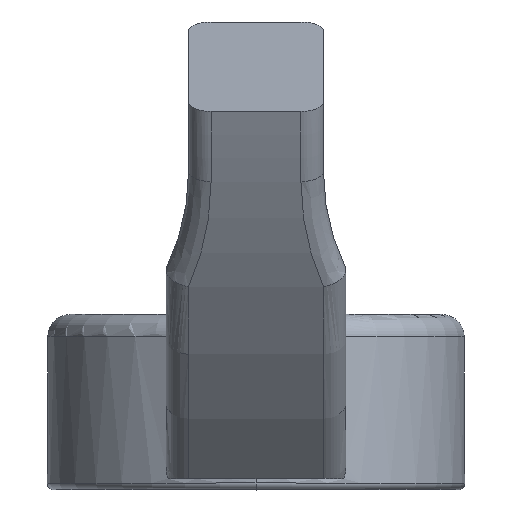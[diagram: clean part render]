
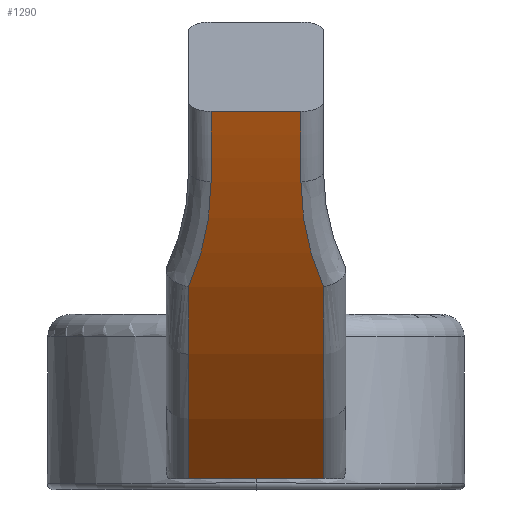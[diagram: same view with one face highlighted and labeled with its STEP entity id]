
A CAD part, top view. The second image highlights one B-rep face of the part: STEP entity #1290.
In plain terms, the highlighted cylindrical face has radius 26 mm (diameter 52 mm), a partial arc.
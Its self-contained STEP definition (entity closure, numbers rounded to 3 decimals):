
#2 = ORIENTED_EDGE ( 'NONE', *, *, #1684, .T. ) ;
#30 = DIRECTION ( 'NONE',  ( -1., 0., 0. ) ) ;
#68 = CARTESIAN_POINT ( 'NONE',  ( 1.045, 6.025, 9.271 ) ) ;
#161 = LINE ( 'NONE', #1410, #1914 ) ;
#215 = DIRECTION ( 'NONE',  ( 1., 0., 0. ) ) ;
#260 = CARTESIAN_POINT ( 'NONE',  ( -1.5, 0.238, 4.65 ) ) ;
#351 = CARTESIAN_POINT ( 'NONE',  ( 1.5, 4.506, 8.303 ) ) ;
#406 = AXIS2_PLACEMENT_3D ( 'NONE', #1479, #3466, #3206 ) ;
#448 = CARTESIAN_POINT ( 'NONE',  ( 1., 8.4, 10.5 ) ) ;
#475 = EDGE_CURVE ( 'NONE', #3282, #764, #161, .T. ) ;
#493 = CARTESIAN_POINT ( 'NONE',  ( 1., 19.18, -13.16 ) ) ;
#537 = CARTESIAN_POINT ( 'NONE',  ( -1., 19.18, -13.16 ) ) ;
#565 = ORIENTED_EDGE ( 'NONE', *, *, #1245, .T. ) ;
#618 = EDGE_LOOP ( 'NONE', ( #2269, #2160, #847, #1088, #1352, #2999, #565, #1386, #2 ) ) ;
#764 = VERTEX_POINT ( 'NONE', #2673 ) ;
#813 = CARTESIAN_POINT ( 'NONE',  ( -1.5, 19.18, -13.16 ) ) ;
#847 = ORIENTED_EDGE ( 'NONE', *, *, #1937, .F. ) ;
#877 = CARTESIAN_POINT ( 'NONE',  ( -1., 6.842, 9.726 ) ) ;
#957 = LINE ( 'NONE', #1806, #1260 ) ;
#960 = VERTEX_POINT ( 'NONE', #2480 ) ;
#988 = LINE ( 'NONE', #2749, #1345 ) ;
#995 = VERTEX_POINT ( 'NONE', #448 ) ;
#1053 = EDGE_CURVE ( 'NONE', #3667, #1721, #3473, .T. ) ;
#1088 = ORIENTED_EDGE ( 'NONE', *, *, #475, .F. ) ;
#1104 = VERTEX_POINT ( 'NONE', #3139 ) ;
#1106 = VERTEX_POINT ( 'NONE', #2806 ) ;
#1178 = DIRECTION ( 'NONE',  ( 0., 0., -1. ) ) ;
#1183 = CARTESIAN_POINT ( 'NONE',  ( -1.045, 6.025, 9.271 ) ) ;
#1214 = CARTESIAN_POINT ( 'NONE',  ( 1., 6.427, 9.502 ) ) ;
#1245 = EDGE_CURVE ( 'NONE', #960, #995, #3284, .T. ) ;
#1252 = CARTESIAN_POINT ( 'NONE',  ( -1.5, 4.506, 8.303 ) ) ;
#1260 = VECTOR ( 'NONE', #1843, 1000. ) ;
#1290 = ADVANCED_FACE ( 'NONE', ( #1438 ), #2050, .T. ) ;
#1345 = VECTOR ( 'NONE', #3313, 1000. ) ;
#1352 = ORIENTED_EDGE ( 'NONE', *, *, #2688, .T. ) ;
#1386 = ORIENTED_EDGE ( 'NONE', *, *, #3624, .T. ) ;
#1410 = CARTESIAN_POINT ( 'NONE',  ( 2., 0.238, 4.65 ) ) ;
#1438 = FACE_OUTER_BOUND ( 'NONE', #618, .T. ) ;
#1479 = CARTESIAN_POINT ( 'NONE',  ( 2., 19.18, -13.16 ) ) ;
#1483 = CARTESIAN_POINT ( 'NONE',  ( -1.5, 4.506, 8.303 ) ) ;
#1499 = CARTESIAN_POINT ( 'NONE',  ( 1.336, 4.871, 8.553 ) ) ;
#1529 = EDGE_CURVE ( 'NONE', #3724, #3667, #3629, .T. ) ;
#1620 = AXIS2_PLACEMENT_3D ( 'NONE', #537, #2566, #2890 ) ;
#1684 = EDGE_CURVE ( 'NONE', #1104, #3724, #3564, .T. ) ;
#1721 = VERTEX_POINT ( 'NONE', #260 ) ;
#1725 = DIRECTION ( 'NONE',  ( -1., 0., 0. ) ) ;
#1752 = AXIS2_PLACEMENT_3D ( 'NONE', #3254, #2405, #2354 ) ;
#1806 = CARTESIAN_POINT ( 'NONE',  ( 2., 0.238, 4.65 ) ) ;
#1839 = AXIS2_PLACEMENT_3D ( 'NONE', #813, #215, #1987 ) ;
#1843 = DIRECTION ( 'NONE',  ( -1., 0., 0. ) ) ;
#1914 = VECTOR ( 'NONE', #30, 1000. ) ;
#1937 = EDGE_CURVE ( 'NONE', #764, #1721, #957, .T. ) ;
#1987 = DIRECTION ( 'NONE',  ( 0., 0., -1. ) ) ;
#2050 = CYLINDRICAL_SURFACE ( 'NONE', #406, 26. ) ;
#2139 = AXIS2_PLACEMENT_3D ( 'NONE', #493, #1725, #1178 ) ;
#2160 = ORIENTED_EDGE ( 'NONE', *, *, #1053, .T. ) ;
#2161 = B_SPLINE_CURVE_WITH_KNOTS ( 'NONE', 3,
 ( #351, #1499, #2661, #68, #1214, #2679 ),
 .UNSPECIFIED., .F., .F.,
 ( 4, 2, 4 ),
 ( 0., 0.001, 0.003 ),
 .UNSPECIFIED. ) ;
#2269 = ORIENTED_EDGE ( 'NONE', *, *, #1529, .T. ) ;
#2354 = DIRECTION ( 'NONE',  ( 0., 0., -1. ) ) ;
#2368 = CARTESIAN_POINT ( 'NONE',  ( 1.5, 0.238, 4.65 ) ) ;
#2405 = DIRECTION ( 'NONE',  ( -1., 0., 0. ) ) ;
#2480 = CARTESIAN_POINT ( 'NONE',  ( 1., 6.842, 9.726 ) ) ;
#2566 = DIRECTION ( 'NONE',  ( 1., 0., 0. ) ) ;
#2643 = CARTESIAN_POINT ( 'NONE',  ( -1., 6.427, 9.502 ) ) ;
#2661 = CARTESIAN_POINT ( 'NONE',  ( 1.213, 5.247, 8.797 ) ) ;
#2673 = CARTESIAN_POINT ( 'NONE',  ( 0., 0.238, 4.65 ) ) ;
#2679 = CARTESIAN_POINT ( 'NONE',  ( 1., 6.842, 9.726 ) ) ;
#2688 = EDGE_CURVE ( 'NONE', #3282, #1106, #3374, .T. ) ;
#2749 = CARTESIAN_POINT ( 'NONE',  ( 2., 8.4, 10.5 ) ) ;
#2806 = CARTESIAN_POINT ( 'NONE',  ( 1.5, 4.506, 8.303 ) ) ;
#2877 = EDGE_CURVE ( 'NONE', #1106, #960, #2161, .T. ) ;
#2890 = DIRECTION ( 'NONE',  ( 0., 0., 1. ) ) ;
#2999 = ORIENTED_EDGE ( 'NONE', *, *, #2877, .T. ) ;
#3139 = CARTESIAN_POINT ( 'NONE',  ( -1., 8.4, 10.5 ) ) ;
#3143 = CARTESIAN_POINT ( 'NONE',  ( -1., 6.842, 9.726 ) ) ;
#3206 = DIRECTION ( 'NONE',  ( 0., 0., 1. ) ) ;
#3254 = CARTESIAN_POINT ( 'NONE',  ( 1.5, 19.18, -13.16 ) ) ;
#3282 = VERTEX_POINT ( 'NONE', #2368 ) ;
#3284 = CIRCLE ( 'NONE', #2139, 26. ) ;
#3313 = DIRECTION ( 'NONE',  ( -1., 0., 0. ) ) ;
#3374 = CIRCLE ( 'NONE', #1752, 26. ) ;
#3466 = DIRECTION ( 'NONE',  ( -1., 0., 0. ) ) ;
#3471 = CARTESIAN_POINT ( 'NONE',  ( -1.213, 5.247, 8.797 ) ) ;
#3473 = CIRCLE ( 'NONE', #1839, 26. ) ;
#3491 = CARTESIAN_POINT ( 'NONE',  ( -1.336, 4.871, 8.553 ) ) ;
#3564 = CIRCLE ( 'NONE', #1620, 26. ) ;
#3624 = EDGE_CURVE ( 'NONE', #995, #1104, #988, .T. ) ;
#3629 = B_SPLINE_CURVE_WITH_KNOTS ( 'NONE', 3,
 ( #3143, #2643, #1183, #3471, #3491, #1483 ),
 .UNSPECIFIED., .F., .F.,
 ( 4, 2, 4 ),
 ( 0., 0.001, 0.003 ),
 .UNSPECIFIED. ) ;
#3667 = VERTEX_POINT ( 'NONE', #1252 ) ;
#3724 = VERTEX_POINT ( 'NONE', #877 ) ;
